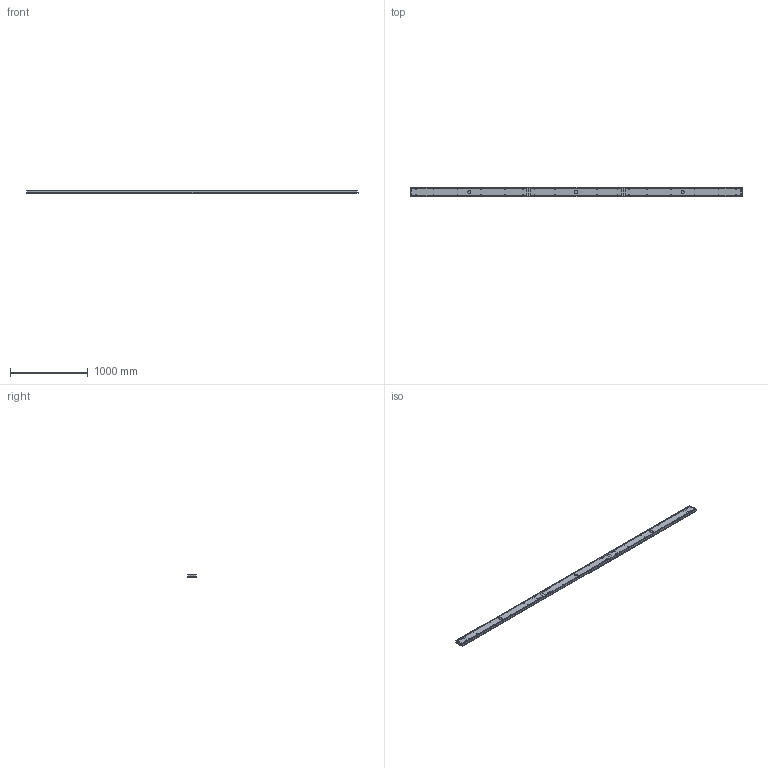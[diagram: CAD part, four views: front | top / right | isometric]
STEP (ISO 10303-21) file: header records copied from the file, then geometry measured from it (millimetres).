
FILE_DESCRIPTION(/* description */ (''),/* implementation_level */ '2;1');
FILE_NAME(/* name */ 'SkLO_Linear_Canopy_14''_MCL014_3D',/* time_stamp */ '2024-10-18T22:14:46+02:00',/* author */ (''),/* organization */ (''),/* preprocessor_version */ 'ST-DEVELOPER v16.5',/* originating_system */ 'Rhino 7.34',/* authorisation */ '');
FILE_SCHEMA (('CONFIG_CONTROL_DESIGN'));
Length unit declared in the file: millimetre
Products named in the file (1): Document
Bounding box: 4270 x 127 x 28.3 mm (x, y, z)
Volume: 3256656.8 mm3; surface area: 2249287.3 mm2
Topology: 6 solids, 24 shells, 513 faces, 1315 edges, 856 vertices
Faces by surface type: cylinder 209, plane 190, bspline 114
Full cylindrical faces by diameter (mm): 3 x48, 5.249 x18, 6 x36, 6.2 x50, 10 x18, 40 x3
Entity records: 23142 total; most frequent: CARTESIAN_POINT 14823, ORIENTED_EDGE 2472, EDGE_CURVE 1245, VERTEX_POINT 802, EDGE_LOOP 707, B_SPLINE_CURVE_WITH_KNOTS 527, ADVANCED_FACE 513, FACE_OUTER_BOUND 513
